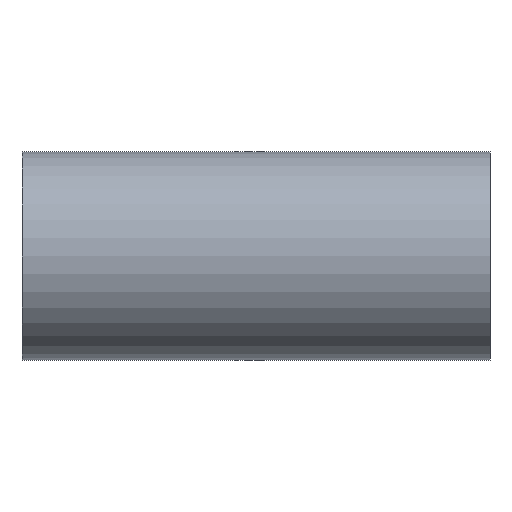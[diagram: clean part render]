
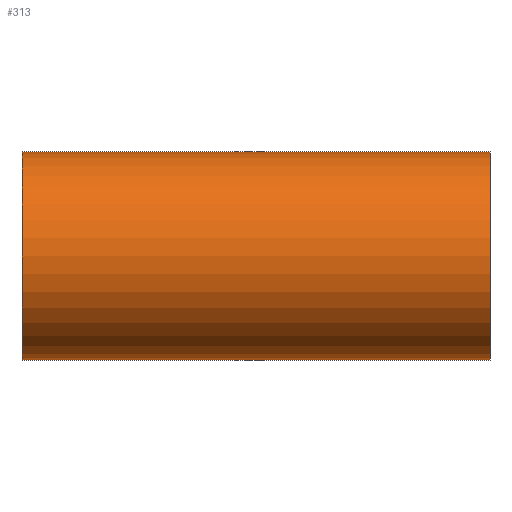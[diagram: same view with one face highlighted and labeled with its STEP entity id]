
A CAD part, front view. The second image highlights one B-rep face of the part: STEP entity #313.
In plain terms, the highlighted cylindrical face has radius 38.1 mm (diameter 76.2 mm), a partial arc.
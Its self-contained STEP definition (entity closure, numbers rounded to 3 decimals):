
#20 = VERTEX_POINT ( 'NONE', #552 ) ;
#25 = EDGE_LOOP ( 'NONE', ( #536, #609, #511, #658 ) ) ;
#33 = CARTESIAN_POINT ( 'NONE',  ( 85.7, 0., -38.1 ) ) ;
#39 = CARTESIAN_POINT ( 'NONE',  ( 85.7, 0., 0. ) ) ;
#58 = AXIS2_PLACEMENT_3D ( 'NONE', #491, #642, #527 ) ;
#80 = LINE ( 'NONE', #531, #99 ) ;
#99 = VECTOR ( 'NONE', #533, 1000. ) ;
#101 = DIRECTION ( 'NONE',  ( -1., 0., 0. ) ) ;
#111 = EDGE_CURVE ( 'NONE', #391, #324, #706, .T. ) ;
#163 = CARTESIAN_POINT ( 'NONE',  ( -85.7, 0., 38.1 ) ) ;
#185 = CIRCLE ( 'NONE', #202, 38.1 ) ;
#192 = EDGE_CURVE ( 'NONE', #273, #391, #185, .T. ) ;
#202 = AXIS2_PLACEMENT_3D ( 'NONE', #702, #326, #780 ) ;
#248 = CIRCLE ( 'NONE', #554, 38.1 ) ;
#251 = EDGE_CURVE ( 'NONE', #324, #20, #248, .T. ) ;
#273 = VERTEX_POINT ( 'NONE', #163 ) ;
#313 = ADVANCED_FACE ( 'NONE', ( #490 ), #818, .T. ) ;
#324 = VERTEX_POINT ( 'NONE', #33 ) ;
#326 = DIRECTION ( 'NONE',  ( 1., 0., 0. ) ) ;
#379 = DIRECTION ( 'NONE',  ( 1., 0., 0. ) ) ;
#391 = VERTEX_POINT ( 'NONE', #420 ) ;
#420 = CARTESIAN_POINT ( 'NONE',  ( -85.7, 0., -38.1 ) ) ;
#422 = VECTOR ( 'NONE', #379, 1000. ) ;
#490 = FACE_OUTER_BOUND ( 'NONE', #25, .T. ) ;
#491 = CARTESIAN_POINT ( 'NONE',  ( -85.7, 0., 0. ) ) ;
#498 = DIRECTION ( 'NONE',  ( 0., 0., -1. ) ) ;
#511 = ORIENTED_EDGE ( 'NONE', *, *, #111, .T. ) ;
#517 = EDGE_CURVE ( 'NONE', #273, #20, #80, .T. ) ;
#527 = DIRECTION ( 'NONE',  ( 0., 0., -1. ) ) ;
#531 = CARTESIAN_POINT ( 'NONE',  ( -85.7, 0., 38.1 ) ) ;
#533 = DIRECTION ( 'NONE',  ( 1., 0., 0. ) ) ;
#536 = ORIENTED_EDGE ( 'NONE', *, *, #517, .F. ) ;
#552 = CARTESIAN_POINT ( 'NONE',  ( 85.7, 0., 38.1 ) ) ;
#554 = AXIS2_PLACEMENT_3D ( 'NONE', #39, #101, #498 ) ;
#609 = ORIENTED_EDGE ( 'NONE', *, *, #192, .T. ) ;
#642 = DIRECTION ( 'NONE',  ( 1., 0., 0. ) ) ;
#658 = ORIENTED_EDGE ( 'NONE', *, *, #251, .T. ) ;
#702 = CARTESIAN_POINT ( 'NONE',  ( -85.7, 0., 0. ) ) ;
#706 = LINE ( 'NONE', #762, #422 ) ;
#762 = CARTESIAN_POINT ( 'NONE',  ( -85.7, 0., -38.1 ) ) ;
#780 = DIRECTION ( 'NONE',  ( 0., 0., -1. ) ) ;
#818 = CYLINDRICAL_SURFACE ( 'NONE', #58, 38.1 ) ;
